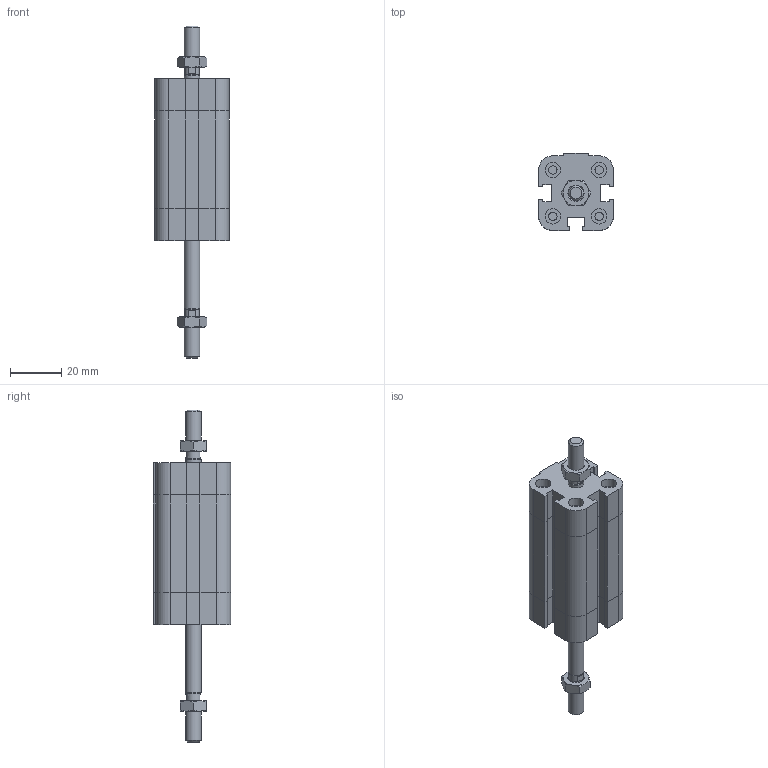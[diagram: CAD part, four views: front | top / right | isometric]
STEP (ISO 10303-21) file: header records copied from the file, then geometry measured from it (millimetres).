
FILE_DESCRIPTION((''),'2;1');
FILE_NAME('I:\Area Tecnica\Disegni\VARIE-3D\Componenti\EUROPE\15##_###_####_04_#\1581_12_0025_04_1.iam.stp','2009-04-20T14:49:14',(''),(''),'Autodesk Inventor 2009','Autodesk Inventor 2009','');
FILE_SCHEMA(('AUTOMOTIVE_DESIGN { 1 0 10303 214 1 1 1 1 }'));
Length unit declared in the file: millimetre
Products named in the file (4): 1581_12_0025_04_1; 1581_12_0025_03_1_C; 1561_12_0025_04_1_S; DBM6
Assembly tree (4 placements, depth 2):
  1581_12_0025_04_1
    1581_12_0025_03_1_C
    1561_12_0025_04_1_S
    DBM6  x2
Bounding box: 29 x 30 x 129 mm (x, y, z)
Volume: 46388 mm3; surface area: 16940.1 mm2
Topology: 4 solids, 4 shells, 224 faces, 491 edges, 293 vertices
Faces by surface type: plane 131, cone 35, bspline 33, cylinder 25
Full cylindrical faces by diameter (mm): 3.242 x4, 5 x1, 5.8 x2, 6 x6
Entity records: 5503 total; most frequent: CARTESIAN_POINT 1232, DIRECTION 814, ORIENTED_EDGE 784, EDGE_CURVE 392, AXIS2_PLACEMENT_3D 276, VECTOR 262, LINE 262, EDGE_LOOP 258
